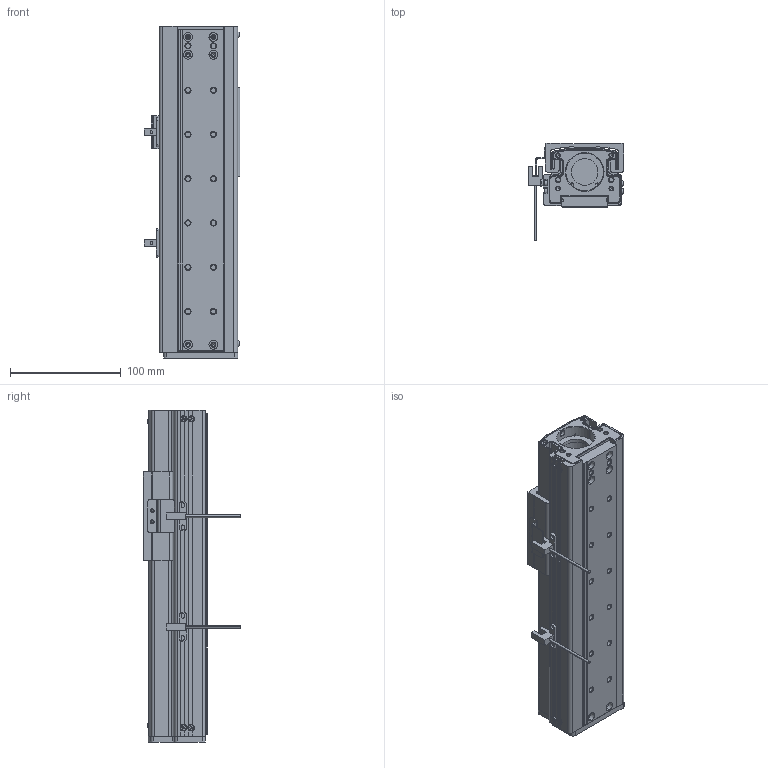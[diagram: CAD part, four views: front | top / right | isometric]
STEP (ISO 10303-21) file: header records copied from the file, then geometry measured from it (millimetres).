
FILE_DESCRIPTION (( 'STEP AP203' ), '1' );
FILE_NAME ('CTHM6-S100.STEP', '2019-12-18T01:38:27', ( '微软用户' ), ( '微软中国' ), 'SwSTEP 2.0', 'SolidWorks 2017', '' );
FILE_SCHEMA (( 'CONFIG_CONTROL_DESIGN' ));
Length unit declared in the file: millimetre
Products named in the file (17): M3-L6半圆头内六角螺丝; 羲壽え; M3-L6囀鞠褒蹟佪; 支持侧轴承座(带磁条); EE-SX672-BR; 遣喳蝶15x12x8; 滅袉蝶; MG60裔啣; CTHM6-S100; 耜結啣(湍羞); LMW15奻窅; DG60傷裔(祥結傷裔); 蟀諉釱(裔啣党蜊); M4-L10囀鞠褒蹟佪; LMW15AA; 侧挡板2(带磁条修改厚度); 固定侧轴承座(自制轴承座)
Assembly tree (29 placements, depth 2):
  CTHM6-S100
    LMW15奻窅
    蟀諉釱(裔啣党蜊)
    LMW15AA
    固定侧轴承座(自制轴承座)
    羲壽え
    支持侧轴承座(带磁条)
    遣喳蝶15x12x8  x2
    MG60裔啣
    耜結啣(湍羞)
    DG60傷裔(祥結傷裔)
    M4-L10囀鞠褒蹟佪  x2
    侧挡板2(带磁条修改厚度)
    M3-L6半圆头内六角螺丝  x8
    M3-L6囀鞠褒蹟佪  x4
    EE-SX672-BR  x2
    滅袉蝶
Bounding box: 86.7 x 87.8 x 300 mm (x, y, z)
Volume: 460252.3 mm3; surface area: 279700.5 mm2
Topology: 33 solids, 33 shells, 1749 faces, 4542 edges, 2816 vertices
Faces by surface type: plane 760, cylinder 617, cone 258, torus 88, bspline 26
Entity records: 47540 total; most frequent: CARTESIAN_POINT 10187, DIRECTION 7542, ORIENTED_EDGE 7300, EDGE_CURVE 3650, AXIS2_PLACEMENT_3D 2772, VERTEX_POINT 2317, LINE 1998, VECTOR 1998
